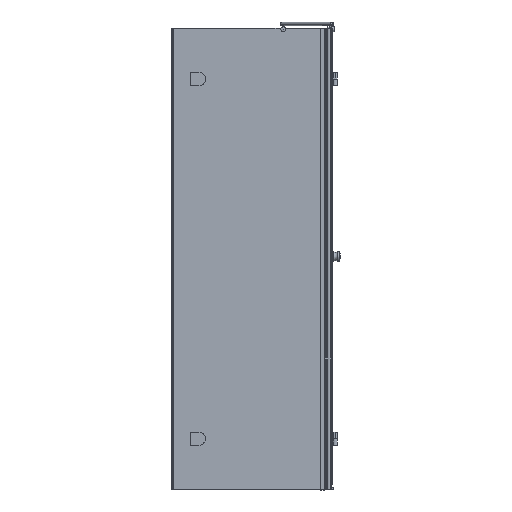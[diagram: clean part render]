
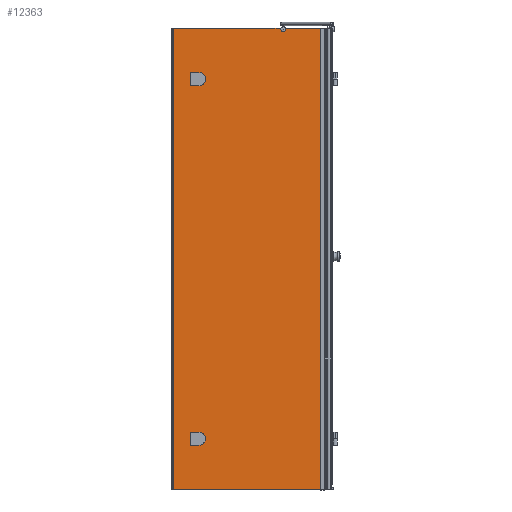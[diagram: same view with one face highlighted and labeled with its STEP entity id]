
A CAD part, front view. The second image highlights one B-rep face of the part: STEP entity #12363.
In plain terms, the highlighted planar face has unit normal (0, -1, 0).
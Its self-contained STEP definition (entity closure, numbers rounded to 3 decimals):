
#79=LINE($,#17508,#1321);
#86=LINE($,#17529,#1328);
#379=LINE($,#18369,#1621);
#383=LINE($,#18381,#1625);
#387=LINE($,#18388,#1629);
#432=LINE($,#18510,#1674);
#436=LINE($,#18522,#1678);
#440=LINE($,#18529,#1682);
#871=LINE($,#20139,#2113);
#897=LINE($,#20205,#2139);
#898=LINE($,#20206,#2140);
#1321=VECTOR($,#13884,444.208);
#1328=VECTOR($,#13899,179.231);
#1621=VECTOR($,#14734,23.);
#1625=VECTOR($,#14746,23.);
#1629=VECTOR($,#14756,52.);
#1674=VECTOR($,#14875,23.);
#1678=VECTOR($,#14887,23.);
#1682=VECTOR($,#14897,52.);
#2113=VECTOR($,#15952,1900.);
#2139=VECTOR($,#16024,641.3);
#2140=VECTOR($,#16025,1900.);
#2683=FACE_BOUND($,#4028,.T.);
#2684=FACE_BOUND($,#4029,.T.);
#2685=FACE_BOUND($,#4030,.T.);
#2686=FACE_BOUND($,#4031,.T.);
#3267=FACE_OUTER_BOUND($,#4027,.T.);
#4027=EDGE_LOOP($,(#9654,#9655,#9656,#9657,#9658,#9659));
#4028=EDGE_LOOP($,(#9660));
#4029=EDGE_LOOP($,(#9661));
#4030=EDGE_LOOP($,(#9662,#9663,#9664,#9665));
#4031=EDGE_LOOP($,(#9666,#9667,#9668,#9669));
#4323=CIRCLE($,#12658,10.);
#4430=CIRCLE($,#12890,4.);
#4446=CIRCLE($,#12928,4.);
#4467=CIRCLE($,#12986,26.);
#4482=CIRCLE($,#13030,26.);
#4698=VERTEX_POINT($,#17134);
#4699=VERTEX_POINT($,#17136);
#4786=VERTEX_POINT($,#17506);
#4796=VERTEX_POINT($,#17528);
#4992=VERTEX_POINT($,#18116);
#5020=VERTEX_POINT($,#18202);
#5071=VERTEX_POINT($,#18366);
#5072=VERTEX_POINT($,#18368);
#5074=VERTEX_POINT($,#18374);
#5076=VERTEX_POINT($,#18380);
#5115=VERTEX_POINT($,#18507);
#5116=VERTEX_POINT($,#18509);
#5118=VERTEX_POINT($,#18515);
#5120=VERTEX_POINT($,#18521);
#5559=VERTEX_POINT($,#20138);
#5576=VERTEX_POINT($,#20204);
#5759=EDGE_CURVE($,#4698,#4699,#4323,.T.);
#5853=EDGE_CURVE($,#4786,#4698,#79,.T.);
#5863=EDGE_CURVE($,#4699,#4796,#86,.T.);
#6145=EDGE_CURVE($,#4992,#4992,#4430,.T.);
#6181=EDGE_CURVE($,#5020,#5020,#4446,.T.);
#6259=EDGE_CURVE($,#5071,#5072,#379,.T.);
#6262=EDGE_CURVE($,#5072,#5074,#4467,.T.);
#6265=EDGE_CURVE($,#5074,#5076,#383,.T.);
#6269=EDGE_CURVE($,#5076,#5071,#387,.T.);
#6327=EDGE_CURVE($,#5115,#5116,#432,.T.);
#6330=EDGE_CURVE($,#5116,#5118,#4482,.T.);
#6333=EDGE_CURVE($,#5118,#5120,#436,.T.);
#6337=EDGE_CURVE($,#5120,#5115,#440,.T.);
#6951=EDGE_CURVE($,#5559,#4786,#871,.T.);
#6984=EDGE_CURVE($,#5559,#5576,#897,.T.);
#6985=EDGE_CURVE($,#4796,#5576,#898,.T.);
#9654=ORIENTED_EDGE($,*,*,#5759,.F.);
#9655=ORIENTED_EDGE($,*,*,#5853,.F.);
#9656=ORIENTED_EDGE($,*,*,#6951,.F.);
#9657=ORIENTED_EDGE($,*,*,#6984,.T.);
#9658=ORIENTED_EDGE($,*,*,#6985,.F.);
#9659=ORIENTED_EDGE($,*,*,#5863,.F.);
#9660=ORIENTED_EDGE($,*,*,#6145,.F.);
#9661=ORIENTED_EDGE($,*,*,#6181,.F.);
#9662=ORIENTED_EDGE($,*,*,#6259,.F.);
#9663=ORIENTED_EDGE($,*,*,#6269,.F.);
#9664=ORIENTED_EDGE($,*,*,#6265,.F.);
#9665=ORIENTED_EDGE($,*,*,#6262,.F.);
#9666=ORIENTED_EDGE($,*,*,#6327,.F.);
#9667=ORIENTED_EDGE($,*,*,#6337,.F.);
#9668=ORIENTED_EDGE($,*,*,#6333,.F.);
#9669=ORIENTED_EDGE($,*,*,#6330,.F.);
#11028=PLANE($,#13369);
#12363=ADVANCED_FACE($,(#3267,#2683,#2684,#2685,#2686),#11028,.F.);
#12658=AXIS2_PLACEMENT_3D($,#17137,#13733,#13734);
#12890=AXIS2_PLACEMENT_3D($,#18117,#14468,#14469);
#12928=AXIS2_PLACEMENT_3D($,#18203,#14564,#14565);
#12986=AXIS2_PLACEMENT_3D($,#18375,#14740,#14741);
#13030=AXIS2_PLACEMENT_3D($,#18516,#14881,#14882);
#13369=AXIS2_PLACEMENT_3D($,#20203,#16022,#16023);
#13733=DIRECTION('center_axis',(0.,-1.,0.));
#13734=DIRECTION('ref_axis',(-0.947,0.,-0.322));
#13884=DIRECTION($,(1.,0.,0.));
#13899=DIRECTION($,(1.,0.,0.));
#14468=DIRECTION('center_axis',(0.,-1.,0.));
#14469=DIRECTION('ref_axis',(-1.,0.,0.));
#14564=DIRECTION('center_axis',(0.,-1.,0.));
#14565=DIRECTION('ref_axis',(-1.,0.,0.));
#14734=DIRECTION($,(1.,0.,0.));
#14740=DIRECTION('center_axis',(0.,-1.,0.));
#14741=DIRECTION('ref_axis',(0.,0.,
1.));
#14746=DIRECTION($,(-1.,0.,0.));
#14756=DIRECTION($,(0.,0.,-1.));
#14875=DIRECTION($,(1.,0.,0.));
#14881=DIRECTION('center_axis',(0.,-1.,0.));
#14882=DIRECTION('ref_axis',(0.,0.,
1.));
#14887=DIRECTION($,(-1.,0.,0.));
#14897=DIRECTION($,(0.,0.,-1.));
#15952=DIRECTION($,(0.,0.,1.));
#16022=DIRECTION('center_axis',(0.,1.,0.));
#16023=DIRECTION('ref_axis',(1.,0.,0.));
#16024=DIRECTION($,(1.,0.,0.));
#16025=DIRECTION($,(0.,0.,-1.));
#17134=CARTESIAN_POINT('',(1124.641,-170.044,1385.944));
#17136=CARTESIAN_POINT('',(1142.502,-170.044,1385.944));
#17137=CARTESIAN_POINT('Origin',(1133.572,-170.044,1381.444));
#17506=CARTESIAN_POINT('',(680.433,-170.044,1385.944));
#17508=CARTESIAN_POINT($,(675.733,-170.044,1385.944));
#17528=CARTESIAN_POINT('',(1321.733,-170.044,1385.944));
#17529=CARTESIAN_POINT($,(675.733,-170.044,1385.944));
#18116=CARTESIAN_POINT('',(1303.733,-170.044,-304.056));
#18117=CARTESIAN_POINT('Origin',(1299.733,-170.044,-304.056));
#18202=CARTESIAN_POINT('',(1303.733,-170.044,1175.944));
#18203=CARTESIAN_POINT('Origin',(1299.733,-170.044,1175.944));
#18366=CARTESIAN_POINT('',(763.733,-170.044,1149.944));
#18368=CARTESIAN_POINT('',(786.733,-170.044,1149.944));
#18369=CARTESIAN_POINT($,(731.233,-170.044,1149.944));
#18374=CARTESIAN_POINT('',(786.733,-170.044,1201.944));
#18375=CARTESIAN_POINT('Origin',(786.733,-170.044,1175.944));
#18380=CARTESIAN_POINT('',(763.733,-170.044,1201.944));
#18381=CARTESIAN_POINT($,(719.733,-170.044,1201.944));
#18388=CARTESIAN_POINT($,(763.733,-170.044,1267.944));
#18507=CARTESIAN_POINT('',(763.733,-170.044,-330.056));
#18509=CARTESIAN_POINT('',(786.733,-170.044,-330.056));
#18510=CARTESIAN_POINT($,(731.233,-170.044,-330.056));
#18515=CARTESIAN_POINT('',(786.733,-170.044,-278.056));
#18516=CARTESIAN_POINT('Origin',(786.733,-170.044,-304.056));
#18521=CARTESIAN_POINT('',(763.733,-170.044,-278.056));
#18522=CARTESIAN_POINT($,(719.733,-170.044,-278.056));
#18529=CARTESIAN_POINT($,(763.733,-170.044,527.944));
#20138=CARTESIAN_POINT('',(680.433,-170.044,-514.056));
#20139=CARTESIAN_POINT($,(680.433,-170.044,1385.944));
#20203=CARTESIAN_POINT('Origin',(675.733,-170.044,1385.944));
#20204=CARTESIAN_POINT('',(1321.733,-170.044,-514.056));
#20205=CARTESIAN_POINT($,(675.733,-170.044,-514.056));
#20206=CARTESIAN_POINT($,(1321.733,-170.044,1385.944));
